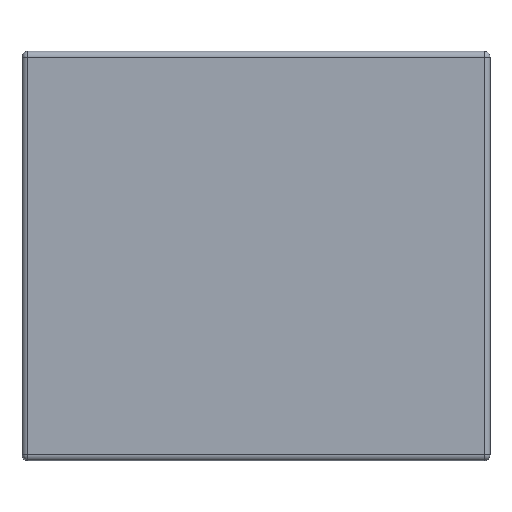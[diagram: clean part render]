
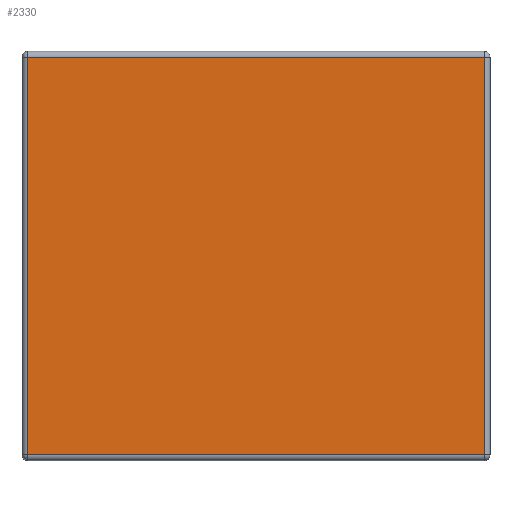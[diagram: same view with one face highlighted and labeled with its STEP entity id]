
A CAD part, left-side view. The second image highlights one B-rep face of the part: STEP entity #2330.
In plain terms, the highlighted planar face has unit normal (-1, 0, 0).
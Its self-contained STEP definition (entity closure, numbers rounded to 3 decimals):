
#733=DIRECTION('',(0.,0.,1.));
#734=VECTOR('',#733,340.);
#735=CARTESIAN_POINT('',(-160.,395.,-345.));
#736=LINE('',#735,#734);
#737=DIRECTION('',(0.,-1.,0.));
#738=VECTOR('',#737,390.);
#739=CARTESIAN_POINT('',(-160.,395.,-5.));
#740=LINE('',#739,#738);
#741=DIRECTION('',(0.,0.,1.));
#742=VECTOR('',#741,340.);
#743=CARTESIAN_POINT('',(-160.,5.,-345.));
#744=LINE('',#743,#742);
#745=DIRECTION('',(0.,1.,0.));
#746=VECTOR('',#745,390.);
#747=CARTESIAN_POINT('',(-160.,5.,-345.));
#748=LINE('',#747,#746);
#1130=CARTESIAN_POINT('',(-160.,395.,-345.));
#1131=CARTESIAN_POINT('',(-160.,395.,-5.));
#1132=VERTEX_POINT('',#1130);
#1133=VERTEX_POINT('',#1131);
#1134=CARTESIAN_POINT('',(-160.,5.,-345.));
#1135=VERTEX_POINT('',#1134);
#1136=CARTESIAN_POINT('',(-160.,5.,-5.));
#1137=VERTEX_POINT('',#1136);
#2316=CARTESIAN_POINT('',(-160.,0.,0.));
#2317=DIRECTION('',(-1.,0.,0.));
#2318=DIRECTION('',(0.,1.,0.));
#2319=AXIS2_PLACEMENT_3D('',#2316,#2317,#2318);
#2320=PLANE('',#2319);
#2322=ORIENTED_EDGE('',*,*,#2321,.T.);
#2323=ORIENTED_EDGE('',*,*,#2307,.T.);
#2325=ORIENTED_EDGE('',*,*,#2324,.F.);
#2327=ORIENTED_EDGE('',*,*,#2326,.T.);
#2328=EDGE_LOOP('',(#2322,#2323,#2325,#2327));
#2329=FACE_OUTER_BOUND('',#2328,.F.);
#2330=ADVANCED_FACE('',(#2329),#2320,.T.);
#2307=EDGE_CURVE('',#1133,#1137,#740,.T.);
#2321=EDGE_CURVE('',#1132,#1133,#736,.T.);
#2324=EDGE_CURVE('',#1135,#1137,#744,.T.);
#2326=EDGE_CURVE('',#1135,#1132,#748,.T.);
